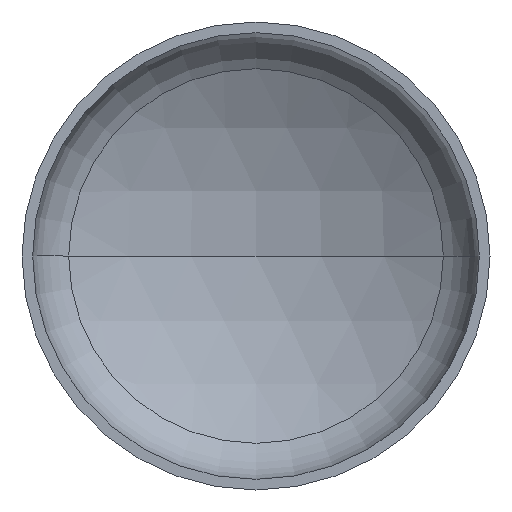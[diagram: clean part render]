
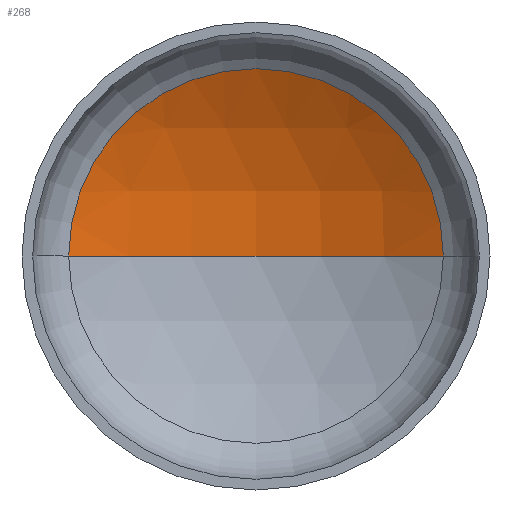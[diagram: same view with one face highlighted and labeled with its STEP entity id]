
A CAD part, front view. The second image highlights one B-rep face of the part: STEP entity #268.
In plain terms, the highlighted spherical face has radius 2880 mm.
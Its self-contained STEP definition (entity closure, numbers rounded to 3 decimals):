
#1 = DIRECTION ( 'NONE',  ( 0., -1., 0. ) ) ;
#35 = FACE_OUTER_BOUND ( 'NONE', #141, .T. ) ;
#36 = CARTESIAN_POINT ( 'NONE',  ( 1440.619, 580.575, 0. ) ) ;
#42 = CARTESIAN_POINT ( 'NONE',  ( 0., -1913.22, 0. ) ) ;
#48 = AXIS2_PLACEMENT_3D ( 'NONE', #88, #1, #200 ) ;
#74 = ORIENTED_EDGE ( 'NONE', *, *, #81, .F. ) ;
#81 = EDGE_CURVE ( 'NONE', #406, #190, #91, .T. ) ;
#88 = CARTESIAN_POINT ( 'NONE',  ( 0., 580.575, 0. ) ) ;
#91 = CIRCLE ( 'NONE', #346, 2880. ) ;
#93 = DIRECTION ( 'NONE',  ( 1., 0., 0. ) ) ;
#101 = EDGE_CURVE ( 'NONE', #406, #401, #255, .T. ) ;
#141 = EDGE_LOOP ( 'NONE', ( #74, #376, #410 ) ) ;
#147 = CARTESIAN_POINT ( 'NONE',  ( -1440.619, 580.575, 0. ) ) ;
#158 = EDGE_CURVE ( 'NONE', #401, #190, #176, .T. ) ;
#176 = CIRCLE ( 'NONE', #48, 1440.619 ) ;
#190 = VERTEX_POINT ( 'NONE', #147 ) ;
#200 = DIRECTION ( 'NONE',  ( 1., 0., 0. ) ) ;
#205 = DIRECTION ( 'NONE',  ( -1., 0., 0. ) ) ;
#255 = CIRCLE ( 'NONE', #324, 2880. ) ;
#259 = DIRECTION ( 'NONE',  ( -1., 0., 0. ) ) ;
#268 = ADVANCED_FACE ( 'NONE', ( #35 ), #382, .F. ) ;
#314 = CARTESIAN_POINT ( 'NONE',  ( 0., -1913.22, 0. ) ) ;
#317 = AXIS2_PLACEMENT_3D ( 'NONE', #42, #392, #205 ) ;
#324 = AXIS2_PLACEMENT_3D ( 'NONE', #357, #359, #259 ) ;
#325 = DIRECTION ( 'NONE',  ( 0., 0., 1. ) ) ;
#346 = AXIS2_PLACEMENT_3D ( 'NONE', #314, #325, #93 ) ;
#357 = CARTESIAN_POINT ( 'NONE',  ( 0., -1913.22, 0. ) ) ;
#359 = DIRECTION ( 'NONE',  ( 0., 0., -1. ) ) ;
#363 = CARTESIAN_POINT ( 'NONE',  ( 0., 966.78, 0. ) ) ;
#376 = ORIENTED_EDGE ( 'NONE', *, *, #101, .T. ) ;
#382 = SPHERICAL_SURFACE ( 'NONE', #317, 2880. ) ;
#392 = DIRECTION ( 'NONE',  ( 0., 0., -1. ) ) ;
#401 = VERTEX_POINT ( 'NONE', #36 ) ;
#406 = VERTEX_POINT ( 'NONE', #363 ) ;
#410 = ORIENTED_EDGE ( 'NONE', *, *, #158, .T. ) ;
